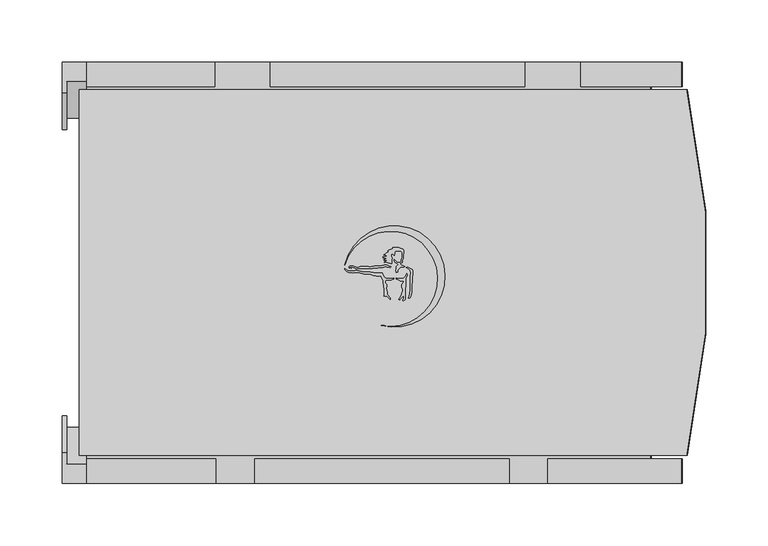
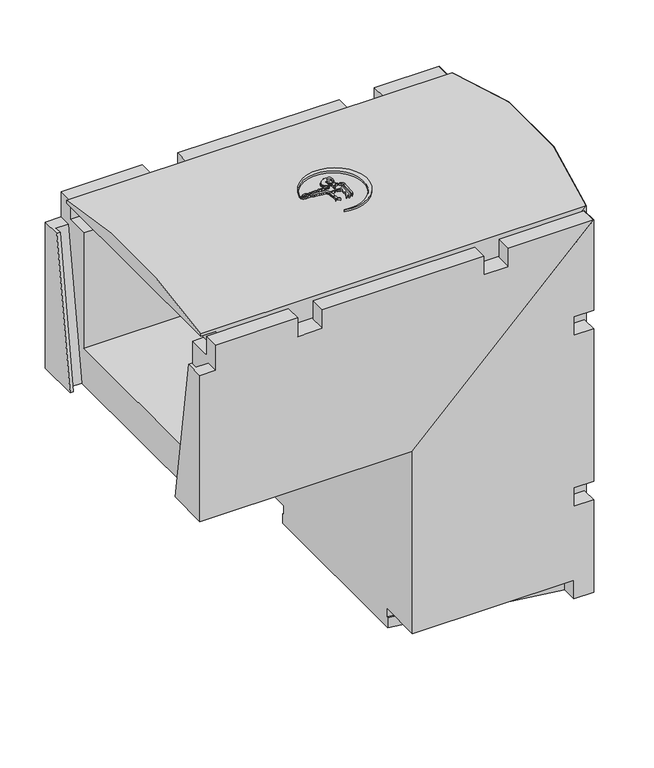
"""IFC4 building model written with IfcOpenShell, lengths in millimetres: cable carrier fitting geometry, Evotray type 2 vertical bend down : Evotray type 2 vertical bend down."""

from ifc_helpers import new_model, si_unit, point, frame, frame_2d, origin, place, context, project, spatial, polyline, circle_curve, ellipse_curve, trimmed, segment, composite_curve, outline, extrude, faceted_brep, source, transform, mapped, element, save
from ifc_brep_helpers import plane_surface, cylinder_surface, advanced_brep


def cable_carrier_fitting_d0668c8b(model_context):
    return source(origin(), model_context, "Body", "SolidModel", [
        extrude(outline(composite_curve([segment(polyline([(-110.1987673, 5.907559), (-108.7730763, 5.0844359), (-109.4820077, 4.6751342), (-112.0469375, 4.6751342), (-114.5064308, 2.2156409), (-114.5064308, 0.6319729), (-115.5639447, 0.3486129), (-115.8953119, 1.5852919), (-115.5730905, 2.7878385), (-115.5730905, 5.0146536), (-114.1065498, 6.4811943), (-114.5064308, 7.1738084), (-115.5730905, 7.7896447), (-116.4313624, 8.2851682), (-117.4244859, 9.2782918), (-117.4244859, 10.5283487), (-116.6366917, 10.0735155), (-115.5730905, 9.0099142), (-114.5064308, 8.394078), (-112.1936661, 8.394078), (-111.5617675, 9.0259766), (-111.5617675, 10.6343813), (-111.1559104, 11.3373462), (-110.9163405, 12.2314336), (-110.9163405, 16.3268685), (-111.5617675, 16.9722955), (-115.5730905, 17.3232408), (-116.3212546, 16.8912881), (-116.7531031, 16.1433045), (-116.9754965, 15.313321), (-117.2482129, 13.7666695), (-117.8042347, 14.3226912), (-118.3698905, 14.8883471), (-119.3304254, 14.8883471), (-119.8048648, 14.0665939), (-119.8048648, 13.2416885), (-119.4028177, 12.5453225), (-118.675123, 11.8176278), (-119.0717623, 10.3373496), (-119.4092623, 9.0777826), (-119.1064549, 7.3604762), (-119.907248, 7.2192748), (-121.6376932, 7.6829462), (-122.8844025, 8.2642963), (-123.6376597, 8.6155459), (-125.2371082, 8.33352), (-124.7695498, 9.1433549), (-123.1127288, 9.7463885)]), True, "CONTINUOUS"), segment(trimmed(circle_curve(frame_2d((-123.6788564, 9.4744491)), 0.6280537), [point((-123.1127288, 9.7463885))], [point((-123.8344386, 10.0829273))], True, "CARTESIAN"), True, "CONTINUOUS"), segment(polyline([(-123.8344386, 10.0829273), (-125.7814537, 10.0829273), (-125.2232755, 10.6411054), (-124.3724958, 10.9507639), (-123.5540563, 11.2486515)]), True, "CONTINUOUS"), segment(trimmed(circle_curve(frame_2d((-124.2923812, 11.2486515)), 0.7383249), [point((-123.5540563, 11.2486515))], [point((-124.2923812, 11.9869764))], True, "CARTESIAN"), True, "CONTINUOUS"), segment(polyline([(-124.2923812, 11.9869764), (-126.0001288, 11.9869764), (-126.3916504, 12.6651117), (-124.5730583, 12.9857785), (-123.2767203, 13.457607), (-123.897473, 14.0783597), (-125.8606925, 14.0783597), (-125.30811, 14.6309421), (-124.2782773, 15.2255163), (-123.603553, 15.9002407), (-122.8807357, 16.3175594), (-121.9057237, 16.8804829)]), True, "CONTINUOUS"), segment(trimmed(circle_curve(frame_2d((-122.1167091, 17.2459203)), 0.4219708), [point((-121.9057237, 16.8804829))], [point((-122.3276945, 17.6113577))], True, "CARTESIAN"), True, "CONTINUOUS"), segment(polyline([(-122.3276945, 17.6113577), (-121.7102978, 18.2287544), (-120.4076278, 18.7028875), (-119.4125713, 19.2773836), (-118.2810347, 19.4769041), (-118.6348604, 20.4490324), (-113.6348604, 20.4490324), (-112.6206866, 19.9761154), (-111.4988316, 19.6755153), (-110.4843855, 19.0898245), (-109.3757091, 17.9811481), (-109.3757091, 15.4151328), (-109.8646262, 14.5683035), (-109.8646262, 11.8362675), (-110.3536612, 10.7875287), (-110.760463, 10.0829273), (-110.760463, 8.2341629), (-111.5617675, 7.7715296), (-112.3950459, 7.6246001)]), True, "CONTINUOUS"), segment(trimmed(circle_curve(frame_2d((-111.3420944, 7.3424626)), 1.0900956), [point((-112.3950459, 7.6246001))], [point((-111.6242319, 6.2895111))], True, "CARTESIAN"), True, "CONTINUOUS"), segment(polyline([(-111.6242319, 6.2895111), (-110.1987673, 5.907559)]), True, "CONTINUOUS")], self_intersect=False)), frame((0.0, 0.0, 229.0645802), z_axis=(0.0, 0.0, 1.0), x_axis=(1.0, 0.0, 0.0)), (0.0, 0.0, 1.0), 22.5),
        extrude(outline(polyline([(-105.6420581, 3.0525563), (-107.5647021, 4.1625953), (-106.375462, 4.4812513), (-105.0006066, 3.9808448), (-102.8744575, 2.753312), (-102.462808, 1.2170154), (-102.462808, -1.5561738), (-102.8811889, -3.9289297), (-103.2073261, -13.2682758), (-103.2073261, -16.1231727), (-103.766974, -19.297094), (-104.9259981, -20.4561181), (-105.8234867, -20.4561181), (-105.1486125, -18.6019165), (-104.8396569, -16.8497423), (-104.3251997, -13.9321102), (-104.3251997, -2.6926455), (-103.883565, -0.1880111), (-104.4260419, 1.8365401), (-105.6420581, 3.0525563)])), frame((0.0, 0.0, 229.0645802), z_axis=(0.0, 0.0, 1.0), x_axis=(1.0, 0.0, 0.0)), (0.0, 0.0, 1.0), 22.5),
        extrude(outline(composite_curve([segment(polyline([(-113.070307, -4.5554644), (-111.0881056, -4.5554644), (-109.6198413, -4.2965698), (-108.3145593, -2.9912878), (-107.1344504, -0.4605362), (-106.6534984, -1.7819409), (-107.2762062, -3.117342), (-107.9468137, -4.5554644), (-107.9468137, -10.5136603), (-108.3751928, -12.943119), (-108.3751928, -21.4242609), (-109.8238515, -22.8729196), (-110.3965887, -22.3001824), (-109.7178687, -20.5578122), (-109.4597233, -19.0937972)]), True, "CONTINUOUS"), segment(trimmed(circle_curve(frame_2d((-109.8743713, -19.0937972)), 0.414648), [point((-109.4597233, -19.0937972))], [point((-110.2890194, -19.0937972))], True, "CARTESIAN"), True, "CONTINUOUS"), segment(polyline([(-110.2890194, -19.0937972), (-111.0547081, -19.8594859), (-112.3215546, -21.3692548), (-112.9770637, -22.0247639), (-113.7693849, -21.6552984), (-111.605165, -18.4467105), (-111.2992553, -16.7118106), (-110.4571975, -14.9060116), (-110.19999, -13.4473154), (-110.9884987, -12.0815782), (-110.9884987, -9.315031), (-109.6653502, -7.4454743)]), True, "CONTINUOUS"), segment(trimmed(circle_curve(frame_2d((-110.0024552, -7.2068937)), 0.4129897), [point((-109.6653502, -7.4454743))], [point((-110.2410358, -6.8697887))], True, "CARTESIAN"), True, "CONTINUOUS"), segment(polyline([(-110.2410358, -6.8697887), (-112.2448508, -6.516462), (-113.6887473, -5.843162), (-115.508748, -4.9944818), (-115.508748, -4.1255015), (-113.070307, -4.5554644)]), True, "CONTINUOUS")], self_intersect=False)), frame((0.0, 0.0, 229.0645802), z_axis=(0.0, 0.0, 1.0), x_axis=(1.0, 0.0, 0.0)), (0.0, 0.0, 1.0), 22.5),
        extrude(outline(composite_curve([segment(polyline([(-155.4819029, 2.2537302), (-153.7462291, 1.4443722), (-149.5597552, 1.4443722), (-148.4890341, 1.731271), (-147.1624965, 1.731271), (-145.4413877, 1.4443722), (-143.4350656, 0.9067798), (-142.2818775, 0.597784), (-136.5899708, 0.597784), (-133.9734749, 0.1616293), (-132.6459123, -0.19409), (-127.03167, -0.19409)]), True, "CONTINUOUS"), segment(trimmed(circle_curve(frame_2d((-118.1781038, 2.7115165)), 9.3181642), [point((-127.03167, -0.19409))], [point((-123.6774022, -4.8108435))], True, "CARTESIAN"), True, "CONTINUOUS"), segment(polyline([(-123.6774022, -4.8108435), (-120.6256174, -4.8108435), (-118.5910388, -4.632841), (-117.4520349, -4.1017147), (-117.7095548, -5.0627921), (-118.6536491, -5.6078652), (-119.612336, -5.9567987), (-122.847041, -5.8438403), (-124.0357356, -6.2764898), (-124.44473, -7.153581), (-124.3696494, -8.0117562), (-123.8907652, -8.8412079), (-123.1701597, -9.5618134), (-123.1701597, -11.3180259), (-123.53546, -12.3216801), (-123.3911934, -13.970655), (-122.8861011, -15.8556852), (-122.737982, -17.5486944), (-120.3666469, -20.2766033), (-120.5753239, -21.4600691), (-123.1701597, -18.8652332), (-124.1329913, -19.1232231), (-125.5361675, -18.8758053), (-125.2606072, -18.1187094), (-125.2606072, -15.8446539), (-125.0850033, -14.8487551), (-125.2606072, -12.8415943), (-125.6362696, -11.8094702), (-125.6362696, -9.9842873), (-126.0826053, -9.0271173), (-126.0826053, -6.6493678), (-126.3310455, -5.7221762), (-126.7830159, -4.9393406), (-127.2317276, -4.1621491), (-127.84617, -3.5477067), (-128.2800213, -2.6173096), (-131.8809595, -2.4915621), (-134.2251115, -2.1008055), (-136.2577048, -1.5561738), (-139.5993244, -1.2049554), (-141.6789374, -1.2049554), (-143.021172, -0.8453047), (-144.5447671, -0.4370587), (-145.8880204, 0.1893106), (-146.8824091, 0.1893106), (-149.5338495, 0.1893106), (-150.6460936, -0.1087143), (-152.5093755, 0.0871245), (-153.9984504, 0.3353447), (-155.6717579, 1.1156208), (-156.6476843, 2.0915471), (-157.2867674, 2.7306302), (-157.2867674, 3.5175099), (-155.4819029, 2.2537302)]), True, "CONTINUOUS")], self_intersect=False)), frame((0.0, 0.0, 229.0645802), z_axis=(0.0, 0.0, 1.0), x_axis=(1.0, 0.0, 0.0)), (0.0, 0.0, 1.0), 22.5),
        extrude(outline(composite_curve([segment(polyline([(-152.9796703, 3.7977023), (-151.956356, 3.2068915), (-153.6840165, 3.7265624), (-154.014163, 4.6441261), (-153.1758386, 5.4824506), (-150.30302, 5.4824506), (-149.318583, 5.0847122), (-148.2280942, 4.6441261), (-147.4299007, 4.1832889), (-146.1696706, 4.1832889), (-145.3486455, 4.4787), (-144.4633932, 4.9898007), (-138.0496883, 4.9898007), (-137.1941137, 4.6441261), (-136.1237116, 4.6441261), (-135.1629915, 4.9898007), (-133.9838348, 4.9898007), (-133.2654957, 5.4045339), (-127.8528405, 5.4045339), (-127.0925598, 5.6780888), (-125.8504018, 5.6780888), (-125.2746333, 6.2538574), (-123.3170698, 6.2538574), (-122.0290688, 5.7334711), (-121.0171524, 5.1492409), (-120.2127113, 4.8242256)]), True, "CONTINUOUS"), segment(trimmed(circle_curve(frame_2d((-120.6200436, 4.6596527)), 0.4393221), [point((-120.2127113, 4.8242256))], [point((-120.7846166, 4.2523203))], False, "CARTESIAN"), True, "CONTINUOUS"), segment(polyline([(-120.7846166, 4.2523203), (-121.8003453, 4.6627013), (-123.112003, 4.6627013), (-124.382433, 4.8867124), (-125.1944574, 4.5945398), (-126.3374314, 4.1832889), (-129.6816293, 4.1832889), (-130.4727027, 3.7265624), (-134.0400229, 3.7265624), (-134.9228853, 3.2168416), (-144.9228853, 3.2168416), (-147.5335493, 2.9884381), (-151.222077, 4.4787), (-153.3728446, 4.4787), (-152.9796703, 3.7977023)]), True, "CONTINUOUS")], self_intersect=False)), frame((0.0, 0.0, 229.0645802), z_axis=(0.0, 0.0, 1.0), x_axis=(1.0, 0.0, 0.0)), (0.0, 0.0, 1.0), 22.5),
        extrude(outline(composite_curve([segment(trimmed(circle_curve(frame_2d((-120.3994103, -4.8721323)), 38.3616107), [point((-127.8072471, -42.511701))], [point((-157.1109456, 6.2578432))], True, "CARTESIAN"), True, "CONTINUOUS"), segment(trimmed(circle_curve(frame_2d((-117.2700096, -2.9917986)), 40.900563), [point((-157.1109456, 6.2578432))], [point((-127.8072471, -42.511701))], False, "CARTESIAN"), True, "CONTINUOUS")], self_intersect=False)), frame((0.0, 0.0, 229.0645802), z_axis=(0.0, 0.0, 1.0), x_axis=(1.0, 0.0, 0.0)), (0.0, 0.0, 1.0), 22.5),
        advanced_brep(
        [(90.0, -147.5, 205.0), (90.0, -147.5, -270.0), (118.9759433, -147.5, -270.0), (118.9759433, -147.5, -258.0), (119.0, -147.5, 234.0), (90.0, 147.5, -270.0), (90.0, 147.5, 205.0), (119.0, 147.5, 234.0), (119.0, 147.5, -258.0), (118.9759433, 147.5, -270.0)],
        [
            (0, 1),
            (1, 2),
            (2, 3),
            (3, 4),
            (4, 0),
            (5, 6),
            (6, 7),
            (7, 8),
            (8, 9),
            (9, 5),
            (1, 5),
            (9, 2),
            (6, 0),
            (4, 7, ellipse_curve(frame((-515.6801756, 0.0, -400.6801756), z_axis=(-0.7071067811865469, 0.0, 0.7071067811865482), x_axis=(-0.7071067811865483, 0.0, -0.7071067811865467)), 921.4935434, 651.5943334)),
            (8, 3),
            (8, 3, circle_curve(frame((-515.6801756, 0.0, -258.0), z_axis=(0.0, 0.0, -1.0), x_axis=(0.0, -1.0, 0.0)), 651.5943334)),
        ],
        [
            plane_surface(frame((90.0, -147.5, -270.0), z_axis=(0.0, -1.0, 0.0), x_axis=(1.0, 0.0, 0.0))),
            plane_surface(frame((90.0, 147.5, -270.0), z_axis=(0.0, 1.0, 0.0), x_axis=(-1.0, 0.0, 0.0))),
            plane_surface(frame((90.0, -147.5, -270.0), z_axis=(0.0, 0.0, -1.0), x_axis=(0.0, 1.0, 0.0))),
            plane_surface(frame((136.0, -147.5, 251.0), z_axis=(-0.7071067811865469, 0.0, 0.7071067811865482), x_axis=(0.0, 1.0, 0.0))),
            plane_surface(frame((90.0, -147.5, 205.0), z_axis=(-1.0, 0.0, 0.0), x_axis=(0.0, 1.0, 0.0))),
            plane_surface(frame((118.9759433, -147.5, -270.0), z_axis=(1.0, 0.0, 0.0), x_axis=(0.0, 0.0, 1.0))),
            plane_surface(frame((118.9759433, -147.5, -258.0), z_axis=(0.0, 0.0, -1.0), x_axis=(1.0, 0.0, 0.0))),
            cylinder_surface(frame((-515.6801756, 0.0, 228.0), z_axis=(0.0, 0.0, -1.0), x_axis=(0.0, -1.0, 0.0)), 651.5943334),
        ],
        [
            (0, [[1, 2, 3, 4, 5]]),
            (1, [[6, 7, 8, 9, 10]]),
            (2, [[11, -10, 12, -2]]),
            (3, [[13, -5, 14, -7]]),
            (4, [[-1, -13, -6, -11]]),
            (5, [[15, -3, -12, -9]]),
            (6, [[-15, 16]]),
            (7, [[-4, -16, -8, -14]]),
        ],
    ),
        advanced_brep(
        [(-351.0, -147.5, 205.0), (90.0, -147.5, 205.0), (119.0, -147.5, 234.0), (-371.0, -147.5, 234.0), (-371.0, -147.5, 230.0), (-351.0, -147.5, 230.0), (90.0, 147.5, 205.0), (-351.0, 147.5, 205.0), (-351.0, 147.5, 230.0), (-371.0, 147.5, 230.0), (-371.0, 147.5, 234.0), (119.0, 147.5, 234.0)],
        [
            (0, 1),
            (1, 2),
            (2, 3),
            (3, 4),
            (4, 5),
            (5, 0),
            (6, 7),
            (7, 8),
            (8, 9),
            (9, 10),
            (10, 11),
            (11, 6),
            (9, 4),
            (3, 10, circle_curve(frame((-371.0, 0.0, -400.6801756), z_axis=(-1.0, 0.0, 0.0), x_axis=(0.0, -1.0, 0.0)), 651.5943334)),
            (6, 1),
            (0, 7),
            (11, 2, ellipse_curve(frame((-515.6801756, 0.0, -400.6801756), z_axis=(0.7071067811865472, 0.0, -0.7071067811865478), x_axis=(0.7071067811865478, 0.0, 0.7071067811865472)), 921.4935434, 651.5943334)),
            (8, 5),
        ],
        [
            plane_surface(frame((-371.0, -147.5, 205.0), z_axis=(0.0, -1.0, 0.0), x_axis=(0.0, 0.0, -1.0))),
            plane_surface(frame((-371.0, 147.5, 205.0), z_axis=(0.0, 1.0, 0.0), x_axis=(0.0, 0.0, 1.0))),
            plane_surface(frame((-371.0, -147.5, 251.0), z_axis=(-1.0, 0.0, 0.0), x_axis=(0.0, 1.0, 0.0))),
            plane_surface(frame((-371.0, -147.5, 205.0), z_axis=(0.0, 0.0, -1.0), x_axis=(0.0, 1.0, 0.0))),
            plane_surface(frame((90.0, -147.5, 205.0), z_axis=(0.7071067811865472, 0.0, -0.7071067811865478), x_axis=(0.0, 1.0, 0.0))),
            plane_surface(frame((-371.0, 147.5, 230.0), z_axis=(0.0, 0.0, -1.0), x_axis=(-1.0, 0.0, 0.0))),
            plane_surface(frame((-351.0, -147.5, 230.0), z_axis=(-1.0, 0.0, 0.0), x_axis=(0.0, 0.0, -1.0))),
            cylinder_surface(frame((-371.0, 0.0, -400.6801756), z_axis=(1.0, 0.0, 0.0), x_axis=(0.0, -1.0, 0.0)), 651.5943334),
        ],
        [
            (0, [[1, 2, 3, 4, 5, 6]]),
            (1, [[7, 8, 9, 10, 11, 12]]),
            (2, [[13, -4, 14, -10]]),
            (3, [[15, -1, 16, -7]]),
            (4, [[-15, -12, 17, -2]]),
            (5, [[18, -5, -13, -9]]),
            (6, [[-18, -8, -16, -6]]),
            (7, [[-3, -17, -11, -14]]),
        ],
    ),
        faceted_brep([(115.0, -170.0, 230.0), (-115.0, -170.0, 0.0), (-115.0, -170.0, -245.0), (90.0, -170.0, -245.0), (90.0, -170.0, -270.0), (115.0, -170.0, -270.0), (115.0, -170.0, -146.0), (90.0, -170.0, -146.0), (90.0, -170.0, -121.0), (115.0, -170.0, -121.0), (115.0, -170.0, 84.0), (90.0, -170.0, 84.0), (90.0, -170.0, 109.0), (115.0, -170.0, 109.0), (-115.0, 170.0, 0.0), (115.0, 170.0, 230.0), (115.0, 170.0, 148.0), (90.0, 170.0, 148.0), (90.0, 170.0, 103.0), (115.0, 170.0, 103.0), (115.0, 170.0, -102.0), (90.0, 170.0, -102.0), (90.0, 170.0, -147.0), (115.0, 170.0, -147.0), (115.0, 170.0, -270.0), (90.0, 170.0, -270.0), (90.0, 170.0, -245.0), (-115.0, 170.0, -245.0), (90.0, -120.0, -270.0), (90.0, -150.0, -270.0), (-115.0, -115.4, -270.0), (-115.0, 115.4, -270.0), (90.0, 150.0, -270.0), (90.0, 120.0, -270.0), (-65.0, 120.0, -270.0), (-65.0, -120.0, -270.0), (115.0, -150.0, -270.0), (115.0, 150.0, -270.0), (115.0, -150.0, -121.0), (115.0, -150.0, 84.0), (115.0, 150.0, 103.0), (115.0, 150.0, -102.0), (115.0, -150.0, -146.0), (115.0, 150.0, -147.0), (115.0, -150.0, 230.0), (115.0, -150.0, 109.0), (115.0, 150.0, 230.0), (115.0, 150.0, 148.0), (90.0, -150.0, 205.0), (90.0, -120.0, 205.0), (-65.0, -120.0, 50.0), (-65.0, 120.0, 50.0), (90.0, 120.0, 205.0), (90.0, 150.0, 205.0), (-115.0, 113.0, -245.0), (-115.0, 113.0, -257.0), (-115.0, 115.4, -257.0), (-115.0, -115.4, -257.0), (-115.0, -113.0, -257.0), (-115.0, -113.0, -245.0), (90.0, -150.0, -257.0), (90.0, -150.0, -245.0), (90.0, -150.0, -146.0), (90.0, -150.0, -121.0), (90.0, -150.0, 84.0), (90.0, -150.0, 109.0), (90.0, 150.0, -147.0), (90.0, 150.0, -245.0), (90.0, 150.0, -257.0), (90.0, 150.0, 103.0), (90.0, 150.0, -102.0), (90.0, 150.0, 148.0), (90.0, -147.6, -245.0), (90.0, -147.6, -257.0), (90.0, 147.6, -257.0), (90.0, 147.6, -245.0)], [[[0, 1, 2, 3, 4, 5, 6, 7, 8, 9, 10, 11, 12, 13]], [[14, 15, 16, 17, 18, 19, 20, 21, 22, 23, 24, 25, 26, 27]], [[28, 29, 30, 31, 32, 33, 34, 35]], [[36, 5, 4, 29]], [[24, 37, 32, 25]], [[10, 9, 38, 39]], [[20, 19, 40, 41]], [[5, 36, 42, 6]], [[37, 24, 23, 43]], [[44, 0, 13, 45]], [[15, 46, 47, 16]], [[1, 0, 44, 48, 49, 50, 51, 52, 53, 46, 15, 14]], [[1, 14, 27, 54, 55, 56, 31, 30, 57, 58, 59, 2]], [[36, 29, 60, 61, 62, 42]], [[39, 38, 63, 64]], [[48, 44, 45, 65]], [[32, 37, 43, 66, 67, 68]], [[41, 40, 69, 70]], [[46, 53, 71, 47]], [[49, 48, 65, 12, 11, 64, 63, 8, 7, 62, 61, 72, 73, 60, 29, 28]], [[53, 52, 33, 32, 68, 74, 75, 67, 66, 22, 21, 70, 69, 18, 17, 71]], [[35, 50, 49, 28]], [[51, 34, 33, 52]], [[50, 35, 34, 51]], [[60, 29, 4, 3, 61]], [[29, 60, 57, 30]], [[32, 68, 67, 26, 25]], [[68, 32, 31, 56]], [[58, 73, 72, 59]], [[59, 72, 61, 3, 2]], [[73, 58, 57, 60]], [[54, 75, 74, 55]], [[75, 54, 27, 26, 67]], [[55, 74, 68, 56]], [[70, 21, 20, 41]], [[22, 66, 43, 23]], [[62, 7, 6, 42]], [[8, 63, 38, 9]], [[71, 17, 16, 47]], [[18, 69, 40, 19]], [[64, 11, 10, 39]], [[12, 65, 45, 13]]]),
        faceted_brep([(-385.0, -170.0, 0.0), (-115.0, -170.0, 0.0), (115.0, -170.0, 230.0), (6.6963481, -170.0, 230.0), (6.6963481, -170.0, 205.0), (-24.6518259, -170.0, 205.0), (-24.6518259, -170.0, 230.0), (-229.6518259, -170.0, 230.0), (-229.6518259, -170.0, 205.0), (-261.0, -170.0, 205.0), (-261.0, -170.0, 230.0), (-365.0130369, -170.0, 230.0), (-365.0130369, -170.0, 196.0), (-385.0, -170.0, 196.0), (115.0, 170.0, 230.0), (-115.0, 170.0, 0.0), (-385.0, 170.0, 0.0), (-385.0, 170.0, 196.0), (-365.0130369, 170.0, 196.0), (-365.0130369, 170.0, 230.0), (-262.0, 170.0, 230.0), (-262.0, 170.0, 205.0), (-217.0, 170.0, 205.0), (-217.0, 170.0, 230.0), (-12.0, 170.0, 230.0), (-12.0, 170.0, 205.0), (33.0, 170.0, 205.0), (33.0, 170.0, 230.0), (-24.6518259, -150.0, 230.0), (-229.6518259, -150.0, 230.0), (-217.0, 150.0, 230.0), (-12.0, 150.0, 230.0), (115.0, -150.0, 230.0), (6.6963481, -150.0, 230.0), (115.0, 150.0, 230.0), (33.0, 150.0, 230.0), (-365.0130369, -150.0, 230.0), (-261.0, -150.0, 230.0), (-365.0130369, 150.0, 230.0), (-262.0, 150.0, 230.0), (-385.0, -115.45, 0.0), (-385.0, -144.8926087, 196.0), (-385.0, 115.45, 0.0), (-385.0, 144.8926087, 196.0), (-381.0, -115.45, 0.0), (-381.0, -124.6, 0.0), (-365.0, -124.6, 0.0), (-365.0, 124.6, 0.0), (-381.0, 124.6, 0.0), (-381.0, 115.45, 0.0), (90.0, 150.0, 205.0), (90.0, 120.0, 205.0), (-65.0, 120.0, 50.0), (-65.0, -120.0, 50.0), (90.0, -120.0, 205.0), (90.0, -150.0, 205.0), (-381.0, 144.8926087, 196.0), (-381.0, -144.8926087, 196.0), (-365.0, 154.0426087, 196.0), (-381.0, 154.0426087, 196.0), (-381.0, -154.0426087, 196.0), (-365.0, -154.0426087, 196.0), (-365.0, -150.0, 205.0), (-365.0, -147.5, 205.0), (-365.0, -120.0, 205.0), (-365.0, -120.0, 50.0), (-365.0, 120.0, 50.0), (-365.0, 120.0, 205.0), (-365.0, 147.5, 205.0), (-365.0, 150.0, 205.0), (-24.6518259, -150.0, 205.0), (-229.6518259, -150.0, 205.0), (6.6963481, -150.0, 205.0), (-261.0, -150.0, 205.0), (-217.0, 150.0, 205.0), (-12.0, 150.0, 205.0), (33.0, 150.0, 205.0), (-262.0, 150.0, 205.0), (-351.0, 120.0, 205.0), (-351.0, -120.0, 205.0)], [[[0, 1, 2, 3, 4, 5, 6, 7, 8, 9, 10, 11, 12, 13]], [[14, 15, 16, 17, 18, 19, 20, 21, 22, 23, 24, 25, 26, 27]], [[7, 6, 28, 29]], [[24, 23, 30, 31]], [[2, 32, 33, 3]], [[34, 14, 27, 35]], [[36, 11, 10, 37]], [[19, 38, 39, 20]], [[40, 0, 13, 41]], [[16, 42, 43, 17]], [[1, 0, 40, 44, 45, 46, 47, 48, 49, 42, 16, 15]], [[2, 1, 15, 14, 34, 50, 51, 52, 53, 54, 55, 32]], [[42, 49, 56, 43]], [[44, 40, 41, 57]], [[48, 47, 58, 59]], [[45, 44, 57, 60]], [[49, 48, 59, 56]], [[46, 45, 60, 61]], [[47, 46, 61, 12, 11, 36, 62, 63, 64, 65, 66, 67, 68, 69, 38, 19, 18, 58]], [[12, 61, 60, 57, 41, 13]], [[58, 18, 17, 43, 56, 59]], [[29, 28, 70, 71]], [[32, 55, 72, 33]], [[62, 36, 37, 73]], [[31, 30, 74, 75]], [[50, 34, 35, 76]], [[38, 69, 77, 39]], [[51, 50, 76, 26, 25, 75, 74, 22, 21, 77, 69, 68, 67, 78]], [[55, 54, 79, 64, 63, 62, 73, 9, 8, 71, 70, 5, 4, 72]], [[53, 65, 64, 79, 54]], [[66, 52, 51, 78, 67]], [[65, 53, 52, 66]], [[77, 21, 20, 39]], [[22, 74, 30, 23]], [[9, 73, 37, 10]], [[71, 8, 7, 29]], [[75, 25, 24, 31]], [[26, 76, 35, 27]], [[5, 70, 28, 6]], [[72, 4, 3, 33]]]),
    ])


if __name__ == "__main__":
    model = new_model("IFC4")
    model_context = context("Model", 3, world=origin())
    ifc_project = project(units=[si_unit("LENGTHUNIT", "METRE", prefix="MILLI")], contexts=[model_context])
    site = spatial("IfcSite", under=ifc_project)
    building = spatial("IfcBuilding", under=site)
    placement = place(None, origin())
    cable_carrier_fitting_shape = cable_carrier_fitting_d0668c8b(model_context)
    element("IfcCableCarrierFitting", 1, ObjectType="Evotray type 2 vertical bend down : Evotray type 2 vertical bend down", at=placement, inside=building, context=model_context, shape_type="MappedRepresentation", body=[
        mapped(cable_carrier_fitting_shape, transform((0.0, 0.0, 0.0), x_axis=(1.0, 0.0, 0.0), y_axis=(0.0, 1.0, 0.0), z_axis=(0.0, 0.0, 1.0))),
    ])
    save(model, "model.ifc")
